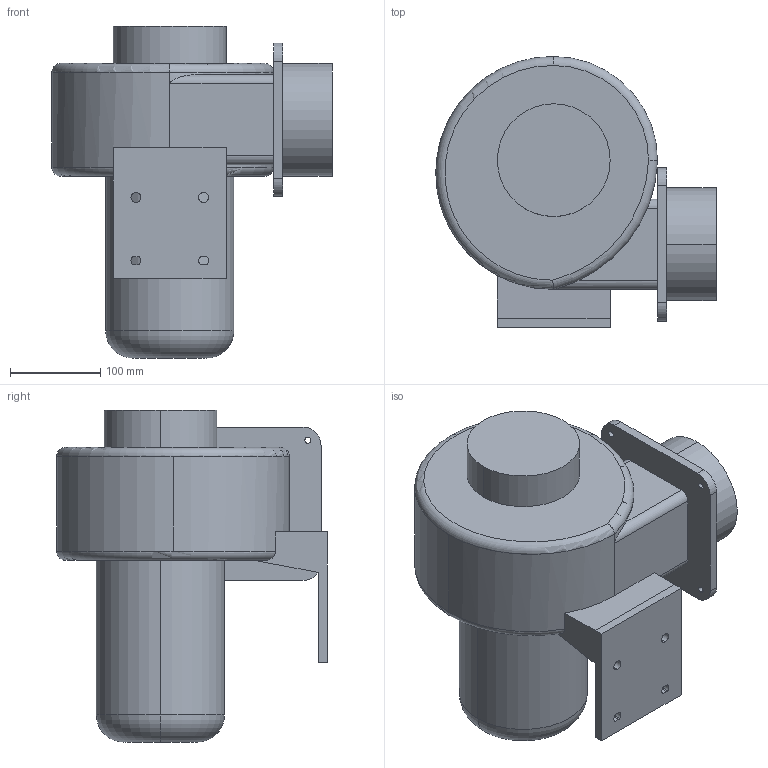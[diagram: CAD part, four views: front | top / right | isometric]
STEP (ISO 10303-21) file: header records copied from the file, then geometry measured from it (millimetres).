
FILE_DESCRIPTION (( 'STEP AP203' ), '1' );
FILE_NAME ('400.STEP', '2019-05-09T03:24:24', ( 'User' ), ( 'www.dadighost.com' ), 'SwSTEP 2.0', 'SolidWorks 2014', '' );
FILE_SCHEMA (( 'CONFIG_CONTROL_DESIGN' ));
Length unit declared in the file: millimetre
Products named in the file (1): 400
Bounding box: 310.73 x 300 x 368 mm (x, y, z)
Volume: 10475969.2 mm3; surface area: 458991.8 mm2
Topology: 1 solids, 1 shells, 95 faces, 251 edges, 163 vertices
Faces by surface type: cylinder 49, plane 38, torus 8
Entity records: 3385 total; most frequent: CARTESIAN_POINT 847, DIRECTION 539, ORIENTED_EDGE 502, EDGE_CURVE 251, AXIS2_PLACEMENT_3D 208, VERTEX_POINT 163, VECTOR 123, LINE 123
